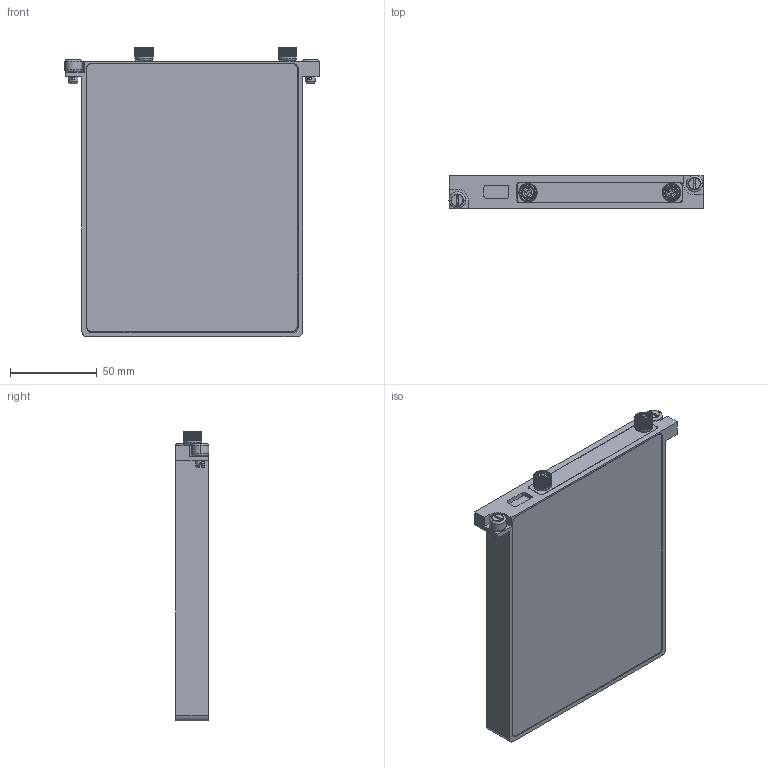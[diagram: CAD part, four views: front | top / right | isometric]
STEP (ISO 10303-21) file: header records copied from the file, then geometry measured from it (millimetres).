
FILE_DESCRIPTION (( 'STEP AP214' ), '1' );
FILE_NAME ('Drive Extender3.STEP', '2017-08-01T15:43:08', ( '' ), ( '' ), 'SwSTEP 2.0', 'SolidWorks 2015', '' );
FILE_SCHEMA (( 'AUTOMOTIVE_DESIGN' ));
Length unit declared in the file: inch
Products named in the file (1): Drive Extender3
Bounding box: 146.32 x 19.18 x 166.76 mm (x, y, z)
Surface area: 56442.2 mm2 (no closed solid volume)
Topology: 0 solids, 13 shells, 635 faces, 2083 edges, 1392 vertices
Faces by surface type: plane 485, cylinder 89, bspline 31, cone 16, torus 14
Entity records: 33599 total; most frequent: CARTESIAN_POINT 8916, ORIENTED_EDGE 3416, DIRECTION 2860, EDGE_CURVE 2083, VERTEX_POINT 1392, LINE 1080, VECTOR 1080, AXIS2_PLACEMENT_3D 890
